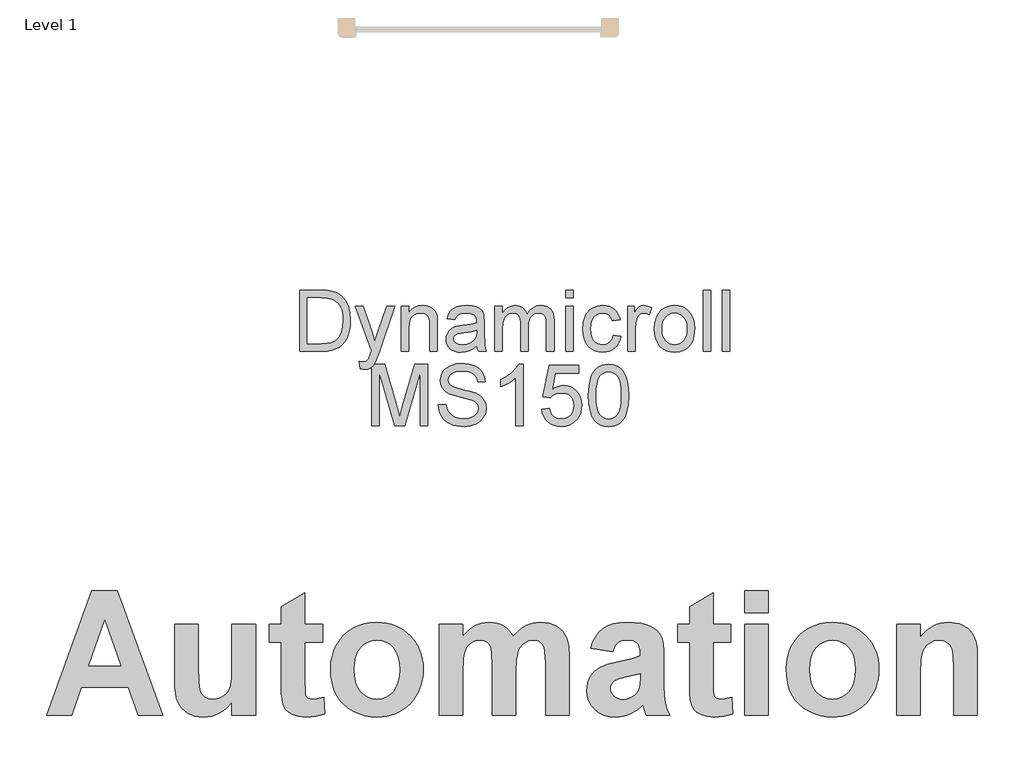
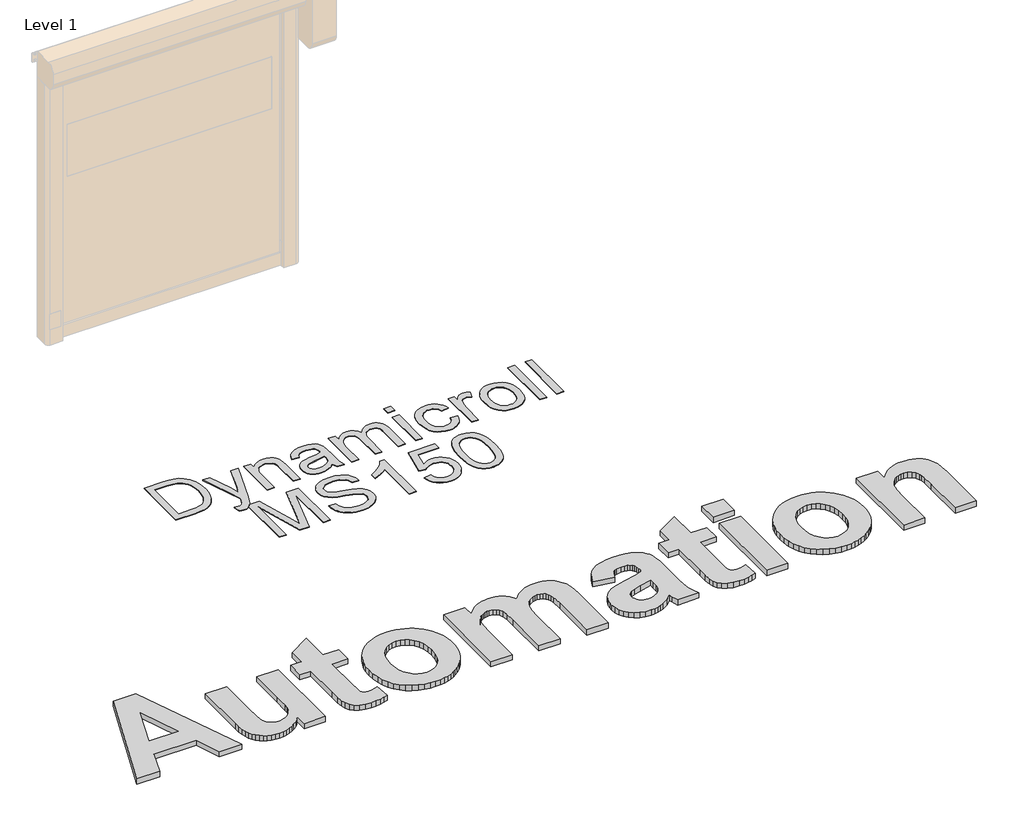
# One storey, part 17 of 20: 2 proxies.
"""IFC4 building model written with IfcOpenShell, lengths in millimetres."""

from ifc_helpers import new_model, si_unit, origin, origin_with_axes, place, context, project, spatial, polyline, outline, extrude, element, save

model = new_model("IFC4")

# Units and contexts
model_context = context("Model", 3, world=origin())
ifc_project = project(units=[si_unit("LENGTHUNIT", "METRE", prefix="MILLI")], contexts=[model_context])

# Site, building, storey
site = spatial("IfcSite", under=ifc_project)
building = spatial("IfcBuilding", under=site)
storey = spatial("IfcBuildingStorey", under=building, Name="Level 1", Elevation=0.0)

# Proxies
placement = place(None, origin())
element("IfcBuildingElementProxy", 1, Name="1000", ObjectType="1000", at=placement, inside=storey, context=model_context, shape_type="SweptSolid", body=[
    extrude(outline(polyline([(1198.6862628, 62514.1517949), (994.4825585, 62514.1517949), (914.5217524, 62740.876106), (529.1410316, 62740.876106), (450.1923876, 62514.1517949), (243.2052375, 62514.1517949), (615.6808914, 63534.4111948), (822.6680415, 63534.4111948), (1198.6862628, 62514.1517949)]), holes=[polyline([(852.273783, 62919.0166361), (720.9457502, 63291.4922901), (591.389001, 62919.0166361), (852.273783, 62919.0166361)])]), origin_with_axes(), (0.0, 0.0, 1.0), 50.0),
    extrude(outline(polyline([(1765.4970406, 62514.1517949), (1765.4970406, 62623.465302), (1744.6291047, 62595.796902), (1720.7404976, 62571.2440635), (1693.8312192, 62549.8067865), (1663.9012695, 62531.4850709), (1632.0102557, 62516.8166279), (1599.2177851, 62506.3391687), (1565.5238576, 62500.0526931), (1530.9284732, 62497.9572012), (1496.2777362, 62500.0131555), (1463.4299129, 62506.1810183), (1432.3850034, 62516.4607897), (1403.1430077, 62530.8524696), (1376.7635329, 62548.9685897), (1354.3061862, 62570.4216818), (1335.7709677, 62595.2117458), (1321.1578773, 62623.3387818), (1310.0873543, 62655.9889171), (1302.1798379, 62694.3482793), (1297.435328, 62738.4168684), (1295.8538247, 62788.1946843), (1295.8538247, 63259.1031028), (1490.1889485, 63259.1031028), (1490.1889485, 62914.7149472), (1492.814244, 62787.2141523), (1500.6901304, 62721.0124247), (1515.5562613, 62689.1293185), (1539.1522903, 62664.5843875), (1570.8772462, 62648.9275049), (1610.1301578, 62643.7085441), (1634.0345799, 62645.4481977), (1656.6579844, 62650.6671586), (1678.0003713, 62659.3654266), (1698.0617405, 62671.5430019), (1715.9485426, 62686.3063351), (1730.7672284, 62702.7618768), (1742.5177978, 62720.909627), (1751.2002509, 62740.7495857), (1757.4550964, 62768.9082517), (1761.9228432, 62812.0121238), (1765.4970406, 62943.0554861), (1765.4970406, 63259.1031028), (1959.8321644, 63259.1031028), (1959.8321644, 62514.1517949), (1765.4970406, 62514.1517949)])), origin_with_axes(), (0.0, 0.0, 1.0), 50.0),
    extrude(outline(polyline([(2510.4483485, 63259.1031028), (2510.4483485, 63113.3517599), (2364.6970057, 63113.3517599), (2364.6970057, 62793.7615759), (2365.804058, 62717.0586665), (2369.1252149, 62680.7789811), (2376.3684999, 62666.1026306), (2389.2419367, 62654.2097259), (2406.6384728, 62646.3338395), (2427.451056, 62643.7085441), (2465.913216, 62648.3897938), (2518.5456453, 62662.433543), (2526.6429422, 62524.2734159), (2490.3158117, 62512.760072), (2451.6796864, 62504.5362549), (2410.7345663, 62499.6019647), (2367.4804514, 62497.9572012), (2315.7336639, 62502.5119307), (2269.3007274, 62516.1761191), (2231.3762786, 62537.0519625), (2205.1549541, 62563.2416569), (2187.8533082, 62597.2123475), (2176.687895, 62641.4311794), (2171.9433851, 62694.2533891), (2170.3618818, 62782.8808333), (2170.3618818, 63113.3517599), (2073.1943199, 63113.3517599), (2073.1943199, 63259.1031028), (2170.3618818, 63259.1031028), (2170.3618818, 63404.8544456), (2364.6970057, 63518.2166012), (2364.6970057, 63259.1031028), (2510.4483485, 63259.1031028)])), origin_with_axes(), (0.0, 0.0, 1.0), 50.0),
    extrude(outline(polyline([(2575.2267231, 62897.2551509), (2578.2236718, 62945.8310244), (2587.214518, 62993.6319612), (2602.1992616, 63040.6579614), (2623.1779027, 63086.909025), (2649.6443602, 63130.0603422), (2681.0925531, 63167.7871031), (2717.5224813, 63200.0893077), (2758.9341448, 63226.966956), (2804.1176937, 63248.111655), (2851.8632779, 63263.2150113), (2902.1708974, 63272.2770252), (2955.0405523, 63275.2976964), (2995.9718342, 63273.5857191), (3035.009266, 63268.4497872), (3072.1528475, 63259.8899007), (3107.4025789, 63247.9060595), (3140.7584601, 63232.4982638), (3172.2204911, 63213.6665134), (3201.7886719, 63191.4108084), (3229.4630025, 63165.7311488), (3254.5199452, 63137.4341012), (3276.2359622, 63107.3262324), (3294.6110535, 63075.4075424), (3309.6452191, 63041.678031), (3321.338459, 63006.1376984), (3329.6907733, 62968.7865446), (3334.7021618, 62929.6245694), (3336.3726247, 62888.651773), (3334.6843699, 62847.3606991), (3329.6196056, 62807.8764927), (3321.1783318, 62770.1991538), (3309.3605485, 62734.3286824), (3294.1662557, 62700.2650785), (3275.5954534, 62668.0083421), (3253.6481415, 62637.5584732), (3228.3243201, 62608.9154718), (3200.4424172, 62582.9096271), (3170.8208607, 62560.3712284), (3139.4596505, 62541.3002757), (3106.3587867, 62525.6967689), (3071.5182693, 62513.560708), (3034.9380983, 62504.8920932), (2996.6182737, 62499.6909242), (2956.5587955, 62497.9572012), (2906.4172338, 62500.8434447), (2857.4617995, 62509.5021752), (2809.6924928, 62523.9333927), (2763.1093135, 62544.1370972), (2719.8710137, 62569.9235083), (2682.1363452, 62601.1028456), (2649.9053083, 62637.6751091), (2623.1779027, 62679.6402988), (2602.1992616, 62726.7374666), (2587.214518, 62778.7056646), (2578.2236718, 62835.5448927), (2575.2267231, 62897.2551509)]), holes=[polyline([(2769.5618469, 62886.6274488), (2772.9225414, 62831.2352962), (2783.0046248, 62782.7226829), (2799.8080973, 62741.0896089), (2823.3329586, 62706.3360742), (2851.7921103, 62678.9365298), (2883.3984534, 62659.3654266), (2918.1519882, 62647.6227647), (2956.0527144, 62643.7085441), (2993.9376256, 62647.6227647), (3028.6437152, 62659.3654266), (3060.1709832, 62678.9365298), (3088.5194297, 62706.3360742), (3111.9335858, 62741.1844991), (3128.6579831, 62783.1022437), (3138.6926214, 62832.089308), (3142.0375009, 62888.145692), (3138.6926214, 62942.8736132), (3128.6579831, 62990.9117755), (3111.9335858, 63032.2601789), (3088.5194297, 63066.9188235), (3060.1709832, 63094.3183679), (3028.6437152, 63113.8894711), (2993.9376256, 63125.632133), (2956.0527144, 63129.5463536), (2918.1519882, 63125.632133), (2883.3984534, 63113.8894711), (2851.7921103, 63094.3183679), (2823.3329586, 63066.9188235), (2799.8080973, 63032.1652888), (2783.0046248, 62990.5322147), (2772.9225414, 62942.0196014), (2769.5618469, 62886.6274488)])]), origin_with_axes(), (0.0, 0.0, 1.0), 50.0),
    extrude(outline(polyline([(3465.9293739, 63259.1031028), (3660.2644977, 63259.1031028), (3660.2644977, 63159.4051356), (3683.64307, 63186.5674546), (3708.1049721, 63210.108131), (3733.6502039, 63230.0271649), (3760.2787655, 63246.3245562), (3787.9906568, 63259.0003051), (3816.7858779, 63268.0544114), (3846.6644287, 63273.4868752), (3877.6263093, 63275.2976964), (3910.0392192, 63273.5185052), (3940.2222094, 63268.1809317), (3968.17528, 63259.2849757), (3993.8984309, 63246.8306373), (4017.4074773, 63230.7704714), (4038.718234, 63211.057033), (4057.8307012, 63187.6903219), (4074.7448789, 63160.6703383), (4099.1395671, 63187.6903219), (4124.4989723, 63211.057033), (4150.8230945, 63230.7704714), (4178.1119337, 63246.8306373), (4206.3496748, 63259.2849757), (4235.520503, 63268.1809317), (4265.624418, 63273.5185052), (4296.66142, 63275.2976964), (4335.1077649, 63273.2180196), (4370.4859934, 63266.9789892), (4402.7961055, 63256.5806051), (4432.0381013, 63242.0228673), (4458.0063853, 63223.4322962), (4480.495362, 63200.9354119), (4499.5050315, 63174.5322146), (4515.0353938, 63144.2227041), (4523.6704017, 63116.751992), (4529.8382645, 63081.9114746), (4534.7725548, 62990.1210239), (4534.7725548, 62514.1517949), (4340.437431, 62514.1517949), (4340.437431, 62943.0554861), (4335.5031407, 63034.8459368), (4329.3352779, 63065.8908463), (4320.70027, 63087.0355453), (4305.7392489, 63105.6340239), (4287.1724003, 63118.9186515), (4264.9997242, 63126.8894281), (4239.2212207, 63129.5463536), (4219.5235972, 63127.9569428), (4200.41113, 63123.1887104), (4163.9416642, 63104.1157808), (4147.5256601, 63089.9217888), (4133.5768011, 63072.7703856), (4122.0950873, 63052.6615713), (4113.0805185, 63029.5953459), (4106.2721469, 63001.4920325), (4101.4090243, 62966.2719543), (4097.5185262, 62874.4815036), (4097.5185262, 62514.1517949), (3903.1834024, 62514.1517949), (3903.1834024, 62925.3426493), (3900.6529972, 63015.4567065), (3893.0617814, 63066.6657829), (3880.1883446, 63094.3737205), (3861.8112764, 63113.9843613), (3836.8551546, 63125.6558555), (3804.2445568, 63129.5463536), (3782.9100775, 63128.0043879), (3762.6826505, 63123.3784908), (3743.5622757, 63115.6686623), (3725.5489533, 63104.8749023), (3709.3227296, 63091.1632688), (3695.563651, 63074.6998196), (3684.2717175, 63055.4845547), (3675.4469292, 63033.5174741), (3668.8046154, 63006.3393401), (3664.0601055, 62971.4909152), (3660.2644977, 62878.7831925), (3660.2644977, 62514.1517949), (3465.9293739, 62514.1517949), (3465.9293739, 63259.1031028)])), origin_with_axes(), (0.0, 0.0, 1.0), 50.0),
    extrude(outline(polyline([(4891.0536151, 63032.3787917), (4712.9130849, 63064.767979), (4729.6532972, 63114.9332632), (4751.5333952, 63158.139933), (4778.5533788, 63194.3879883), (4810.7132481, 63223.6774292), (4849.6419515, 63246.2612961), (4896.9684374, 63262.3926296), (4952.6927056, 63272.0714297), (5016.8147564, 63275.2976964), (5074.9666322, 63273.3445399), (5125.1793615, 63267.4850702), (5167.4529444, 63257.7192874), (5201.7873807, 63244.0471915), (5229.9065092, 63227.3781469), (5253.5341683, 63208.6215179), (5272.670358, 63187.7773046), (5287.3150784, 63164.8455069), (5298.164191, 63135.8486442), (5305.9135571, 63096.8092356), (5310.5631768, 63047.7272811), (5312.11305, 62988.6027807), (5312.11305, 62758.8419833), (5314.6750853, 62673.5673261), (5322.3611913, 62614.1028026), (5337.0691718, 62565.8353223), (5360.6968309, 62514.1517949), (5166.3617071, 62514.1517949), (5148.1427893, 62575.8936832), (5141.3106951, 62600.4386142), (5091.0188906, 62555.6820712), (5037.311039, 62523.6408146), (5009.1444654, 62512.4042338), (4980.06062, 62504.3781046), (4950.0595027, 62499.5624271), (4919.1411134, 62497.9572012), (4866.6589269, 62501.8556068), (4820.0441175, 62513.5508236), (4779.2966854, 62533.0428516), (4744.4166304, 62560.3316908), (4716.4635598, 62593.5669824), (4696.4970808, 62630.8983675), (4684.5171934, 62672.3258461), (4680.5238976, 62717.8494181), (4682.3030888, 62748.4989518), (4687.6406624, 62777.440462), (4696.5366184, 62804.6739486), (4708.9909568, 62830.1994116), (4724.6557468, 62853.4316949), (4743.1830578, 62873.7856422), (4764.5728898, 62891.2612535), (4788.8252427, 62905.8585288), (4851.5160329, 62930.4667199), (4936.8539502, 62951.658864), (5047.3693999, 62976.6466159), (5117.7779262, 62999.9896044), (5117.7779262, 63020.485887), (5116.2675905, 63047.8458938), (5111.7365836, 63070.9674719), (5104.1849054, 63089.8506211), (5093.612556, 63104.4953415), (5078.8650378, 63115.4551593), (5058.7878536, 63123.2836006), (5033.3810033, 63127.9806653), (5002.6444869, 63129.5463536), (4962.3477832, 63124.1692424), (4945.9475941, 63117.4478535), (4932.0461802, 63108.0379089), (4919.9951252, 63095.2435473), (4909.1460127, 63078.3689073), (4891.0536151, 63032.3787917)]), holes=[polyline([(5117.7779262, 62854.2382615), (5008.2113785, 62827.2894455), (4946.2164497, 62811.8223434), (4910.0316545, 62796.5450217), (4894.6436275, 62783.5608797), (4883.6521797, 62768.9003442), (4877.057311, 62752.5634153), (4874.8590214, 62734.5500928), (4876.6223976, 62716.7028283), (4881.9125261, 62700.1049513), (4890.7294069, 62684.7564619), (4903.07304, 62670.6573601), (4918.1368588, 62658.8672531), (4935.1142966, 62650.4457481), (4954.0053534, 62645.3928451), (4974.8100291, 62643.7085441), (4998.9279542, 62645.6696082), (5022.4449081, 62651.5528004), (5045.3608907, 62661.3581208), (5067.6759021, 62675.0855693), (5094.8777586, 62701.5283042), (5110.6927914, 62733.2848902), (5116.0066425, 62765.9903782), (5117.7779262, 62819.0656285), (5117.7779262, 62854.2382615)])]), origin_with_axes(), (0.0, 0.0, 1.0), 50.0),
    extrude(outline(polyline([(5862.7292341, 63259.1031028), (5862.7292341, 63113.3517599), (5716.9778912, 63113.3517599), (5716.9778912, 62793.7615759), (5718.0849435, 62717.0586665), (5721.4061004, 62680.7789811), (5728.6493855, 62666.1026306), (5741.5228222, 62654.2097259), (5758.9193584, 62646.3338395), (5779.7319416, 62643.7085441), (5818.1941015, 62648.3897938), (5870.8265309, 62662.433543), (5878.9238277, 62524.2734159), (5842.5966972, 62512.760072), (5803.960572, 62504.5362549), (5763.0154519, 62499.6019647), (5719.761337, 62497.9572012), (5668.0145495, 62502.5119307), (5621.581613, 62516.1761191), (5583.6571642, 62537.0519625), (5557.4358397, 62563.2416569), (5540.1341938, 62597.2123475), (5528.9687806, 62641.4311794), (5524.2242707, 62694.2533891), (5522.6427674, 62782.8808333), (5522.6427674, 63113.3517599), (5425.4752055, 63113.3517599), (5425.4752055, 63259.1031028), (5522.6427674, 63259.1031028), (5522.6427674, 63404.8544456), (5716.9778912, 63518.2166012), (5716.9778912, 63259.1031028), (5862.7292341, 63259.1031028)])), origin_with_axes(), (0.0, 0.0, 1.0), 50.0),
    extrude(outline(polyline([(5976.0913896, 63356.2706647), (5976.0913896, 63534.4111948), (6170.4265134, 63534.4111948), (6170.4265134, 63356.2706647), (5976.0913896, 63356.2706647)])), origin_with_axes(), (0.0, 0.0, 1.0), 50.0),
    extrude(outline(polyline([(5976.0913896, 62514.1517949), (5976.0913896, 63259.1031028), (6170.4265134, 63259.1031028), (6170.4265134, 62514.1517949), (5976.0913896, 62514.1517949)])), origin_with_axes(), (0.0, 0.0, 1.0), 50.0),
    extrude(outline(polyline([(6316.1778563, 62897.2551509), (6319.174805, 62945.8310244), (6328.1656512, 62993.6319612), (6343.1503948, 63040.6579614), (6364.1290359, 63086.909025), (6390.5954934, 63130.0603422), (6422.0436863, 63167.7871031), (6458.4736144, 63200.0893077), (6499.885278, 63226.966956), (6545.0688269, 63248.111655), (6592.8144111, 63263.2150113), (6643.1220306, 63272.2770252), (6695.9916855, 63275.2976964), (6736.9229674, 63273.5857191), (6775.9603991, 63268.4497872), (6813.1039807, 63259.8899007), (6848.3537121, 63247.9060595), (6881.7095932, 63232.4982638), (6913.1716242, 63213.6665134), (6942.7398051, 63191.4108084), (6970.4141357, 63165.7311488), (6995.4710784, 63137.4341012), (7017.1870954, 63107.3262324), (7035.5621867, 63075.4075424), (7050.5963523, 63041.678031), (7062.2895922, 63006.1376984), (7070.6419064, 62968.7865446), (7075.653295, 62929.6245694), (7077.3237578, 62888.651773), (7075.6355031, 62847.3606991), (7070.5707388, 62807.8764927), (7062.129465, 62770.1991538), (7050.3116817, 62734.3286824), (7035.1173889, 62700.2650785), (7016.5465865, 62668.0083421), (6994.5992747, 62637.5584732), (6969.2754533, 62608.9154718), (6941.3935504, 62582.9096271), (6911.7719938, 62560.3712284), (6880.4107837, 62541.3002757), (6847.3099199, 62525.6967689), (6812.4694025, 62513.560708), (6775.8892315, 62504.8920932), (6737.5694069, 62499.6909242), (6697.5099286, 62497.9572012), (6647.3683669, 62500.8434447), (6598.4129327, 62509.5021752), (6550.643626, 62523.9333927), (6504.0604467, 62544.1370972), (6460.8221468, 62569.9235083), (6423.0874784, 62601.1028456), (6390.8564414, 62637.6751091), (6364.1290359, 62679.6402988), (6343.1503948, 62726.7374666), (6328.1656512, 62778.7056646), (6319.174805, 62835.5448927), (6316.1778563, 62897.2551509)]), holes=[polyline([(6510.5129801, 62886.6274488), (6513.8736746, 62831.2352962), (6523.955758, 62782.7226829), (6540.7592304, 62741.0896089), (6564.2840918, 62706.3360742), (6592.7432434, 62678.9365298), (6624.3495866, 62659.3654266), (6659.1031213, 62647.6227647), (6697.0038476, 62643.7085441), (6734.8887588, 62647.6227647), (6769.5948484, 62659.3654266), (6801.1221164, 62678.9365298), (6829.4705628, 62706.3360742), (6852.884719, 62741.1844991), (6869.6091162, 62783.1022437), (6879.6437546, 62832.089308), (6882.988634, 62888.145692), (6879.6437546, 62942.8736132), (6869.6091162, 62990.9117755), (6852.884719, 63032.2601789), (6829.4705628, 63066.9188235), (6801.1221164, 63094.3183679), (6769.5948484, 63113.8894711), (6734.8887588, 63125.632133), (6697.0038476, 63129.5463536), (6659.1031213, 63125.632133), (6624.3495866, 63113.8894711), (6592.7432434, 63094.3183679), (6564.2840918, 63066.9188235), (6540.7592304, 63032.1652888), (6523.955758, 62990.5322147), (6513.8736746, 62942.0196014), (6510.5129801, 62886.6274488)])]), origin_with_axes(), (0.0, 0.0, 1.0), 50.0),
    extrude(outline(polyline([(7887.0534403, 62514.1517949), (7692.7183165, 62514.1517949), (7692.7183165, 62897.0021104), (7689.6818302, 62997.2061586), (7685.8862223, 63031.1768492), (7680.5723713, 63054.3933174), (7664.567558, 63086.0866433), (7640.8450088, 63109.8091926), (7610.5434058, 63124.6120633), (7574.8014315, 63129.5463536), (7550.6439688, 63127.7829774), (7527.7675238, 63122.4928489), (7506.1720964, 63113.6759681), (7485.8576867, 63101.332335), (7467.7336591, 63086.0708283), (7452.7093778, 63068.5003267), (7440.7848431, 63048.6208304), (7431.9600547, 63026.4323393), (7425.594504, 62998.1471531), (7421.047682, 62959.9775713), (7417.4102245, 62853.985221), (7417.4102245, 62514.1517949), (7223.0751007, 62514.1517949), (7223.0751007, 63259.1031028), (7417.4102245, 63259.1031028), (7417.4102245, 63151.8139199), (7441.2474328, 63180.75543), (7466.5791617, 63205.8380721), (7493.4054111, 63227.0618462), (7521.7261812, 63244.4267523), (7551.5414719, 63257.9327904), (7582.8512832, 63267.5799604), (7615.6556152, 63273.3682624), (7649.9544677, 63275.2976964), (7709.0394305, 63269.4145042), (7736.5892177, 63262.0605139), (7762.8105422, 63251.7649275), (7807.7252355, 63225.0058919), (7825.5329625, 63209.2066741), (7840.2409431, 63191.7943229), (7862.5401394, 63152.9209722), (7876.805299, 63109.1765913), (7884.491405, 63052.9699645), (7887.0534403, 62976.709876), (7887.0534403, 62514.1517949)])), origin_with_axes(), (0.0, 0.0, 1.0), 50.0),
])
element("IfcBuildingElementProxy", 2, Name="500mm", ObjectType="500mm", at=placement, inside=storey, context=model_context, shape_type="SweptSolid", body=[
    extrude(outline(polyline([(2323.0374075, 65500.9633243), (2323.0374075, 66003.244875), (2496.3098272, 66003.244875), (2548.089218, 66001.4361219), (2585.9504067, 65996.0098625), (2625.9882305, 65982.0610035), (2659.7720604, 65960.0800543), (2678.3884222, 65942.1151502), (2694.5062521, 65921.8203268), (2708.1255501, 65899.1955841), (2719.2463163, 65874.2409221), (2734.0535666, 65818.2615451), (2738.9893167, 65754.801901), (2735.6477219, 65700.8918603), (2725.6229375, 65653.4504113), (2710.3558347, 65613.0600339), (2691.2872846, 65580.3032079), (2669.3369923, 65554.4441693), (2645.4246626, 65534.7471542), (2617.9714687, 65520.1391733), (2585.3985837, 65509.5472375), (2547.6446939, 65503.1093026), (2504.6484857, 65500.9633243), (2323.0374075, 65500.9633243)]), holes=[polyline([(2385.8226013, 65563.7485181), (2496.9229638, 65563.7485181), (2542.8775564, 65566.0171238), (2577.7343755, 65572.8229407), (2604.0379381, 65583.76743), (2624.3327615, 65598.452053), (2646.1450981, 65625.6293354), (2662.5311753, 65660.8080512), (2672.785886, 65704.1414845), (2676.2041228, 65755.7829196), (2674.5294933, 65792.233894), (2669.5056048, 65824.2089707), (2661.1324573, 65851.7081499), (2649.4100508, 65874.7314314), (2635.2887472, 65893.7999815), (2619.7189082, 65909.4349663), (2602.7005338, 65921.6363858), (2584.233624, 65930.40424), (2548.1198748, 65937.9458209), (2495.2061812, 65940.4596812), (2385.8226013, 65940.4596812), (2385.8226013, 65563.7485181)])]), origin_with_axes(), (0.0, 0.0, 1.0), 5.0),
    extrude(outline(polyline([(2817.470809, 65359.6966381), (2809.6226597, 65420.1519127), (2841.505766, 65414.6336828), (2858.2750536, 65416.3657938), (2871.3042076, 65421.562127), (2881.4516193, 65429.8548003), (2889.57568, 65440.8759317), (2906.7435065, 65487.1064358), (2911.6485997, 65502.3122249), (2778.2300628, 65869.8263381), (2844.448822, 65869.8263381), (2915.2047924, 65665.0386941), (2939.852886, 65583.1236365), (2964.5009797, 65655.4737623), (3037.2189874, 65869.8263381), (3102.9472372, 65869.8263381), (2974.5564209, 65492.1341564), (2941.2017867, 65410.2190988), (2924.1259307, 65384.0688203), (2904.7814692, 65365.9506321), (2882.3100106, 65355.3740247), (2855.8531638, 65351.8484889), (2837.6736619, 65353.8105262), (2817.470809, 65359.6966381)])), origin_with_axes(), (0.0, 0.0, 1.0), 5.0),
    extrude(outline(polyline([(3154.9412259, 65500.9633243), (3154.9412259, 65869.8263381), (3217.7264197, 65869.8263381), (3217.7264197, 65818.3228588), (3239.5387564, 65844.2891963), (3265.7350201, 65862.8365802), (3296.3152109, 65873.9650106), (3331.2793289, 65877.6744874), (3362.2274018, 65874.6854461), (3390.5696438, 65865.7183225), (3414.206062, 65851.8920909), (3431.0366633, 65834.3257256), (3442.4563335, 65813.0652119), (3449.8599587, 65788.1565352), (3453.1708966, 65727.456006), (3453.1708966, 65500.9633243), (3390.3857028, 65500.9633243), (3390.3857028, 65718.9947201), (3388.5769497, 65751.4603062), (3383.1506902, 65774.5449014), (3373.1412343, 65791.0842627), (3357.5828916, 65803.9141473), (3337.6406217, 65812.145507), (3314.4793845, 65814.8892935), (3295.4146665, 65813.3487877), (3277.7065134, 65808.7272701), (3261.3549251, 65801.0247408), (3246.3599017, 65790.2411998), (3233.8327533, 65775.1503738), (3224.8847902, 65754.5259895), (3219.5160124, 65728.3680468), (3217.7264197, 65696.6765457), (3217.7264197, 65500.9633243), (3154.9412259, 65500.9633243)])), origin_with_axes(), (0.0, 0.0, 1.0), 5.0),
    extrude(outline(polyline([(3774.9450151, 65548.0522197), (3744.9473041, 65522.3311368), (3714.0605449, 65505.5005356), (3681.5796304, 65496.2115152), (3646.7994534, 65493.1151751), (3618.8442539, 65494.9775777), (3594.3302839, 65500.5647855), (3573.2575433, 65509.8767985), (3555.6260323, 65522.9136167), (3541.703998, 65538.8475056), (3531.7596879, 65556.8507307), (3525.7931018, 65576.9232921), (3523.8042397, 65599.0651897), (3526.8086093, 65625.0928408), (3535.8217182, 65648.729259), (3549.724592, 65668.9627688), (3567.3982561, 65684.7816945), (3588.1682605, 65696.7378594), (3611.3601546, 65705.3830863), (3665.6840625, 65714.8253908), (3729.8794707, 65724.7582047), (3774.5771331, 65736.4078012), (3774.9450151, 65750.387317), (3770.6224016, 65778.4076623), (3757.6545613, 65796.7404484), (3744.5794221, 65804.6805681), (3728.6531974, 65810.3520822), (3688.2474916, 65814.8892935), (3650.8461554, 65811.8695955), (3624.7265337, 65802.8105013), (3606.9149138, 65786.0565421), (3594.4375828, 65759.9522489), (3531.6523889, 65767.8003981), (3542.5508931, 65802.136051), (3558.8143429, 65829.114064), (3581.9602518, 65849.7461126), (3613.5061329, 65865.0438722), (3652.0877571, 65874.5168336), (3696.3408955, 65877.6744874), (3738.7852806, 65874.8847156), (3772.4311548, 65866.5154002), (3797.799684, 65853.9307702), (3815.4120346, 65838.4950549), (3827.0922879, 65819.4111764), (3834.6645256, 65795.8820571), (3837.7302089, 65740.9450125), (3837.7302089, 65662.8314022), (3840.9185196, 65553.7543906), (3845.6396718, 65526.791706), (3853.4265074, 65500.9633243), (3790.6413136, 65500.9633243), (3780.5858724, 65522.7909893), (3774.9450151, 65548.0522197)]), holes=[polyline([(3774.9450151, 65673.6226074), (3732.761213, 65663.1686273), (3673.6548391, 65654.3701163), (3619.6374995, 65644.1920477), (3605.5813416, 65637.2329467), (3595.1733468, 65627.637358), (3588.7354119, 65616.1410456), (3586.5894336, 65603.4797736), (3591.2646006, 65584.8097624), (3605.2901016, 65569.5120027), (3628.3593684, 65559.3032774), (3660.1658326, 65555.9003689), (3693.8883488, 65559.6558309), (3723.6867904, 65570.922217), (3747.8443748, 65587.5228921), (3764.6443192, 65607.2812209), (3772.0939296, 65627.637358), (3774.5771331, 65655.8416443), (3774.9450151, 65673.6226074)])]), origin_with_axes(), (0.0, 0.0, 1.0), 5.0),
    extrude(outline(polyline([(3924.0598505, 65500.9633243), (3924.0598505, 65869.8263381), (3986.8450443, 65869.8263381), (3986.8450443, 65809.1258089), (4005.7296534, 65837.0081985), (4030.0098651, 65858.8511919), (4058.8579449, 65872.9686635), (4091.4461583, 65877.6744874), (4126.364291, 65872.876693), (4154.3539794, 65858.4833099), (4175.2619395, 65835.4447), (4188.934887, 65804.711225), (4211.8202128, 65836.6326523), (4237.924506, 65859.4336718), (4267.2477667, 65873.1142835), (4299.7899949, 65877.6744874), (4324.9247658, 65875.7775958), (4346.9861892, 65870.0869212), (4365.9742651, 65860.6024635), (4381.8889935, 65847.3242228), (4394.4697913, 65830.0989147), (4403.4560754, 65808.7732553), (4408.8478459, 65783.3472445), (4410.6451028, 65753.8208823), (4410.6451028, 65500.9633243), (4347.8599089, 65500.9633243), (4347.8599089, 65726.8428693), (4346.4037093, 65758.1588242), (4342.0351107, 65779.2660536), (4333.8497363, 65793.7207504), (4320.9432096, 65805.079107), (4304.3425346, 65812.4367469), (4285.0747151, 65814.8892935), (4267.2822557, 65813.3181308), (4251.0609589, 65808.6046428), (4236.4108249, 65800.7488293), (4223.3318535, 65789.7506905), (4212.5751373, 65775.2883296), (4204.8917685, 65757.0398498), (4200.2817473, 65735.0052511), (4198.7450735, 65709.1845336), (4198.7450735, 65500.9633243), (4135.9598797, 65500.9633243), (4135.9598797, 65733.8326272), (4132.327045, 65769.3332398), (4121.4285409, 65794.6557838), (4113.0017439, 65803.5079443), (4102.2526919, 65809.8309161), (4073.7878225, 65814.8892935), (4049.5995813, 65811.5170419), (4027.3120638, 65801.400287), (4008.917964, 65784.7842836), (3996.4099762, 65761.9142862), (3989.2362773, 65730.1844641), (3986.8450443, 65686.9889865), (3986.8450443, 65500.9633243), (3924.0598505, 65500.9633243)])), origin_with_axes(), (0.0, 0.0, 1.0), 5.0),
    extrude(outline(polyline([(4504.8228935, 65940.4596812), (4504.8228935, 66003.244875), (4567.6080874, 66003.244875), (4567.6080874, 65940.4596812), (4504.8228935, 65940.4596812)])), origin_with_axes(), (0.0, 0.0, 1.0), 5.0),
    extrude(outline(polyline([(4504.8228935, 65500.9633243), (4504.8228935, 65869.8263381), (4567.6080874, 65869.8263381), (4567.6080874, 65500.9633243), (4504.8228935, 65500.9633243)])), origin_with_axes(), (0.0, 0.0, 1.0), 5.0),
    extrude(outline(polyline([(4897.230355, 65634.3818612), (4960.0155489, 65626.533712), (4953.1867394, 65596.9077151), (4942.5104973, 65570.6922908), (4927.9868227, 65547.8874392), (4909.6157155, 65528.4931603), (4888.1712609, 65513.0152917), (4864.4275438, 65501.9596714), (4838.3845642, 65495.3262991), (4810.0423222, 65493.1151751), (4774.8291175, 65496.2000189), (4743.2564116, 65505.4545503), (4715.3242047, 65520.8787694), (4691.0324967, 65542.4726761), (4671.3699705, 65569.8300674), (4657.3253089, 65602.5447402), (4648.898512, 65640.6166946), (4646.0895797, 65684.0459306), (4650.887374, 65739.9180086), (4665.2807571, 65788.3404762), (4676.1332759, 65809.2905894), (4689.4996551, 65827.4432666), (4705.3798946, 65842.7985078), (4723.7739943, 65855.356313), (4764.7775084, 65872.0949438), (4809.1839309, 65877.6744874), (4837.0394957, 65875.7584353), (4862.2355803, 65870.0102791), (4884.7721846, 65860.4300188), (4904.6493086, 65847.0176544), (4921.5297272, 65830.0797542), (4935.0762153, 65809.9228866), (4945.2887728, 65786.5470515), (4952.1673997, 65759.9522489), (4889.3822058, 65752.1040997), (4877.9931924, 65779.4959799), (4860.2582145, 65799.1316814), (4837.1582909, 65810.9498905), (4809.6744402, 65814.8892935), (4788.3411166, 65812.9502488), (4769.1001218, 65807.1331148), (4751.9514559, 65797.4378914), (4736.8951188, 65783.8645786), (4724.6362177, 65766.0989439), (4715.8798598, 65743.8267548), (4710.6260451, 65717.0480112), (4708.8747735, 65685.7627132), (4710.5877241, 65654.0060664), (4715.7265757, 65626.9169224), (4724.2913284, 65604.4952812), (4736.2819822, 65586.7411428), (4751.0394151, 65573.2483042), (4767.9045053, 65563.6105624), (4786.8772528, 65557.8279173), (4807.9576575, 65555.9003689), (4840.4692289, 65560.7134917), (4867.1253451, 65575.15286), (4877.905054, 65586.0743567), (4886.5157919, 65599.5863558), (4897.230355, 65634.3818612)])), origin_with_axes(), (0.0, 0.0, 1.0), 5.0),
    extrude(outline(polyline([(5014.9525935, 65500.9633243), (5014.9525935, 65869.8263381), (5069.8896381, 65869.8263381), (5069.8896381, 65815.2571755), (5090.1844615, 65846.8950271), (5108.8851296, 65865.5343815), (5127.6471114, 65874.6394609), (5148.1258758, 65877.6744874), (5179.3958453, 65872.8307077), (5211.1563243, 65858.2993689), (5190.1870505, 65802.0134237), (5168.1141308, 65811.6703261), (5146.0412111, 65814.8892935), (5127.2945578, 65811.7929534), (5110.5405986, 65802.503933), (5097.0056068, 65787.7273395), (5087.9158559, 65768.1682801), (5080.2823045, 65733.0968632), (5077.7377873, 65694.8371357), (5077.7377873, 65500.9633243), (5014.9525935, 65500.9633243)])), origin_with_axes(), (0.0, 0.0, 1.0), 5.0),
    extrude(outline(polyline([(5234.700772, 65685.3948312), (5238.0960162, 65733.1658411), (5248.2817489, 65774.3303035), (5265.2579702, 65808.8882185), (5289.0246799, 65836.8395859), (5312.952338, 65854.7048553), (5339.3631996, 65867.465762), (5368.2572646, 65875.122306), (5399.6345331, 65877.6744874), (5434.2729222, 65874.5666509), (5465.5927092, 65865.2431416), (5493.593894, 65849.7039594), (5518.2764766, 65827.9491043), (5538.4218479, 65800.7143404), (5552.8113989, 65768.7354315), (5561.4451294, 65732.0123778), (5564.3230396, 65690.5451791), (5559.2340054, 65627.1161918), (5552.8727125, 65601.0808764), (5543.9669026, 65578.8316799), (5532.6277065, 65559.6136778), (5518.9662553, 65542.6719455), (5502.982549, 65528.006483), (5484.6765877, 65515.6172904), (5443.9489851, 65498.7407039), (5399.6345331, 65493.1151751), (5364.4903063, 65496.2115152), (5332.8792794, 65505.5005356), (5304.8014526, 65520.9822362), (5280.2568257, 65542.6566171), (5260.3260522, 65570.1557962), (5246.0897854, 65603.1118916), (5237.5480253, 65641.5249033), (5234.700772, 65685.3948312)]), holes=[polyline([(5297.4859658, 65685.5174585), (5299.3023831, 65655.0637271), (5304.7516352, 65628.6950187), (5313.833722, 65606.4113333), (5326.5486434, 65588.2126708), (5342.0150156, 65574.0760387), (5359.3514547, 65563.9784444), (5378.5579605, 65557.9198878), (5399.6345331, 65555.9003689), (5420.6038068, 65557.9313841), (5439.7336706, 65564.0244296), (5457.0241244, 65574.1795055), (5472.4751682, 65588.3966118), (5485.1900896, 65606.7753832), (5494.2721764, 65629.4154543), (5499.7214284, 65656.3168252), (5501.5378458, 65687.4794958), (5499.7099321, 65716.967537), (5494.2261911, 65742.6464667), (5485.0866228, 65764.5162849), (5472.2912272, 65782.5769916), (5456.7827018, 65796.7136237), (5439.5037444, 65806.811218), (5420.4543548, 65812.8697746), (5399.6345331, 65814.8892935), (5378.5579605, 65812.8774388), (5359.3514547, 65806.8418749), (5342.0150156, 65796.7826016), (5326.5486434, 65782.6996189), (5313.833722, 65764.5546059), (5304.7516352, 65742.3092415), (5299.3023831, 65715.9635257), (5297.4859658, 65685.5174585)])]), origin_with_axes(), (0.0, 0.0, 1.0), 5.0),
    extrude(outline(polyline([(5634.9563827, 65500.9633243), (5634.9563827, 66003.244875), (5697.7415765, 66003.244875), (5697.7415765, 65500.9633243), (5634.9563827, 65500.9633243)])), origin_with_axes(), (0.0, 0.0, 1.0), 5.0),
    extrude(outline(polyline([(5791.9193673, 65500.9633243), (5791.9193673, 66003.244875), (5854.7045612, 66003.244875), (5854.7045612, 65500.9633243), (5791.9193673, 65500.9633243)])), origin_with_axes(), (0.0, 0.0, 1.0), 5.0),
    extrude(outline(polyline([(2911.6485997, 64891.0892351), (2911.6485997, 65393.3707858), (3019.683279, 65393.3707858), (3122.444983, 65039.3456791), (3143.169002, 64965.4013981), (3165.6098037, 65045.4770457), (3266.6547251, 65393.3707858), (3374.6894043, 65393.3707858), (3374.6894043, 64891.0892351), (3311.9042105, 64891.0892351), (3311.9042105, 65330.585592), (3185.7206861, 64891.0892351), (3100.6173179, 64891.0892351), (2974.4337936, 65330.585592), (2974.4337936, 64891.0892351), (2911.6485997, 64891.0892351)])), origin_with_axes(), (0.0, 0.0, 1.0), 5.0),
    extrude(outline(polyline([(3461.0190459, 65063.7485181), (3523.8042397, 65063.7485181), (3531.0085955, 65028.9070275), (3544.0377495, 65000.9020106), (3564.3632297, 64978.6758068), (3593.4565641, 64961.1707551), (3629.0184903, 64949.8123985), (3668.7497458, 64946.0262797), (3703.7291922, 64948.8926936), (3734.3553683, 64957.4919352), (3759.1720745, 64971.103569), (3776.7231114, 64989.0071594), (3787.161763, 65009.5625659), (3790.6413136, 65031.1296479), (3788.0354828, 65052.1449069), (3780.2179904, 65070.3090804), (3764.3377509, 65085.8061094), (3737.5436789, 65098.819935), (3646.1250031, 65122.7935784), (3586.1142527, 65138.6584894), (3547.7165694, 65153.7569796), (3516.4619282, 65174.8795375), (3494.3123664, 65200.477993), (3481.1145999, 65230.0005231), (3476.7153443, 65262.8953049), (3482.1569322, 65299.668176), (3498.4816957, 65333.9578436), (3510.6179695, 65349.4855295), (3525.2604393, 65363.0205212), (3562.0639672, 65384.1124223), (3606.2404635, 65396.9423068), (3655.138112, 65401.218935), (3708.1131193, 65396.7430374), (3754.4662507, 65383.3153446), (3792.5420372, 65361.2117681), (3807.8551252, 65347.0099902), (3820.6850098, 65330.7082193), (3838.4966298, 65293.705422), (3845.5783582, 65252.1040997), (3782.7931643, 65252.1040997), (3778.5931782, 65272.13834), (3771.2661951, 65289.5667495), (3760.8122151, 65304.3893282), (3747.2312381, 65316.6060762), (3730.2703453, 65326.1556796), (3709.6766178, 65332.9768249), (3657.5906586, 65338.4337412), (3604.2784262, 65333.0381386), (3583.8992965, 65326.2936354), (3567.7048245, 65316.8513308), (3555.3654492, 65305.5006384), (3546.5516098, 65293.0309716), (3541.2633061, 65279.4423304), (3539.5005382, 65264.7347148), (3544.4976019, 65240.6077873), (3559.4887932, 65221.2020121), (3573.2537112, 65212.5721136), (3594.9280921, 65203.8502446), (3662.0052426, 65186.1305952), (3731.2283713, 65169.2999939), (3773.1056051, 65154.6153709), (3808.8974576, 65131.8373441), (3833.867448, 65103.7250283), (3848.5367425, 65070.5849919), (3853.4265074, 65032.7238032), (3847.8009786, 64994.0195516), (3830.924392, 64957.6145625), (3803.4865266, 64926.2832793), (3766.1771609, 64902.8001452), (3721.3108859, 64888.1308507), (3671.2022925, 64883.2410858), (3609.6893572, 64888.5140611), (3583.0140804, 64895.1052802), (3559.0595976, 64904.3329869), (3537.6802887, 64916.2125097), (3518.7305339, 64930.7591769), (3502.210333, 64947.9729886), (3488.1196862, 64967.8539447), (3476.7689938, 64989.7582519), (3468.4686563, 65013.0421165), (3463.2186736, 65037.7055386), (3461.0190459, 65063.7485181)])), origin_with_axes(), (0.0, 0.0, 1.0), 5.0),
    extrude(outline(polyline([(4159.5043274, 64891.0892351), (4096.7191335, 64891.0892351), (4096.7191335, 65282.5156779), (4070.5075414, 65261.316478), (4037.2448777, 65240.1479348), (3971.1487459, 65208.4487696), (3971.1487459, 65267.8003981), (4020.4602616, 65294.6251269), (4063.1805583, 65326.53889), (4096.8570893, 65360.4760041), (4119.0373079, 65393.3707858), (4159.5043274, 65393.3707858), (4159.5043274, 64891.0892351)])), origin_with_axes(), (0.0, 0.0, 1.0), 5.0),
    extrude(outline(polyline([(4308.6191628, 65024.507772), (4371.4043566, 65032.3559212), (4382.9313258, 64994.6633451), (4391.9137778, 64979.8292701), (4403.0422082, 64967.6700037), (4416.2936242, 64958.2008745), (4431.6450333, 64951.4372107), (4468.6478307, 64946.0262797), (4492.5601603, 64947.9078428), (4513.6520614, 64953.5525322), (4531.9235338, 64962.9603478), (4547.3745776, 64976.1312896), (4559.6603034, 64992.4139), (4568.4358219, 65011.1567212), (4573.7011329, 65032.3597533), (4575.4562366, 65056.0229962), (4573.8122639, 65078.3871559), (4568.8803459, 65098.268112), (4560.6604826, 65115.6658647), (4549.1526739, 65130.5804139), (4534.3185989, 65142.544243), (4516.1199365, 65151.0898352), (4494.5566866, 65156.2171905), (4469.6288493, 65157.9263089), (4439.1712858, 65155.1978508), (4414.5078637, 65147.0124764), (4394.8108485, 65134.4738317), (4379.2525058, 65118.6855627), (4316.467312, 65126.533712), (4371.4043566, 65385.5226366), (4614.6969827, 65385.5226366), (4614.6969827, 65322.7374427), (4422.1720719, 65322.7374427), (4395.3166863, 65184.4138126), (4417.4739123, 65200.294052), (4440.1676329, 65211.6370802), (4463.397848, 65218.4428971), (4487.1645578, 65220.7115027), (4517.7409165, 65217.8987383), (4545.8264076, 65209.4604451), (4571.421031, 65195.396623), (4594.5247867, 65175.707272), (4613.6508183, 65151.5956729), (4627.3122695, 65124.2651063), (4635.5091402, 65093.7155723), (4638.2414304, 65059.9470709), (4635.7812196, 65027.4201711), (4628.4005871, 64997.161877), (4616.0995329, 64969.1721885), (4598.878057, 64943.4511057), (4572.7890921, 64917.109222), (4542.346857, 64898.2935908), (4507.5513517, 64887.0042121), (4468.402576, 64883.2410858), (4436.0021357, 64885.6591435), (4406.7363566, 64892.9133166), (4380.6052386, 64905.0036051), (4357.6087818, 64921.930009), (4338.4750859, 64942.8494654), (4323.9322508, 64966.9189113), (4313.9802764, 64994.1383469), (4308.6191628, 65024.507772)])), origin_with_axes(), (0.0, 0.0, 1.0), 5.0),
    extrude(outline(polyline([(4693.1784751, 65138.1833085), (4697.7923284, 65218.5808529), (4711.6338885, 65282.6996189), (4721.9805696, 65308.8997148), (4734.5651995, 65331.5206254), (4749.3877782, 65350.5623507), (4766.4483058, 65366.0248908), (4785.8042637, 65377.9887199), (4807.5131335, 65386.5343121), (4831.5749152, 65391.6616674), (4857.9896089, 65393.3707858), (4896.6785321, 65389.3240839), (4931.3207533, 65377.183978), (4960.2914604, 65357.4256492), (4981.9658413, 65330.5242783), (4998.3365901, 65296.7097916), (5011.3964009, 65256.2121153), (5019.9496573, 65204.785278), (5022.8007427, 65138.1833085), (5018.2328746, 65058.2456166), (5004.5292703, 64994.2801347), (4994.2630634, 64968.0685426), (4981.735915, 64945.413143), (4966.9478252, 64926.3139361), (4949.898794, 64910.7709218), (4930.5198435, 64898.7266186), (4908.7419958, 64890.1235448), (4884.5652509, 64884.9617006), (4857.9896089, 64883.2410858), (4823.4087013, 64886.230127), (4792.7518684, 64895.1972507), (4766.0191101, 64910.1424567), (4743.2104264, 64931.0657452), (4721.3214477, 64968.8886128), (4705.6864629, 65016.0158293), (4696.305472, 65072.4473945), (4693.1784751, 65138.1833085)]), holes=[polyline([(4755.9636689, 65138.3059358), (4757.8030789, 65083.7252769), (4763.3213088, 65039.5449485), (4772.5183587, 65005.7649507), (4785.3942285, 64982.3852835), (4800.9678996, 64966.4782193), (4818.2583534, 64955.1160306), (4837.2655898, 64948.2987174), (4857.9896089, 64946.0262797), (4878.713628, 64948.3063816), (4897.7208644, 64955.1466875), (4915.0113181, 64966.5471972), (4930.5849893, 64982.5079109), (4943.4608591, 65005.9258991), (4952.657909, 65039.6982327), (4958.1761389, 65083.8249116), (4960.0155489, 65138.3059358), (4958.2374526, 65191.4418915), (4952.9031636, 65234.8443027), (4944.0126821, 65268.5131695), (4931.5660079, 65292.4484918), (4916.2529199, 65309.1334731), (4898.7631967, 65321.0513169), (4879.0968384, 65328.2020232), (4857.2538449, 65330.585592), (4836.6371248, 65328.4855989), (4817.9517851, 65322.1856197), (4801.1978259, 65311.6856545), (4786.3752472, 65296.9857031), (4773.0701817, 65270.9273951), (4763.5665635, 65235.7946645), (4757.8643925, 65191.5875115), (4755.9636689, 65138.3059358)])]), origin_with_axes(), (0.0, 0.0, 1.0), 5.0),
])

save(model, "model.ifc")
